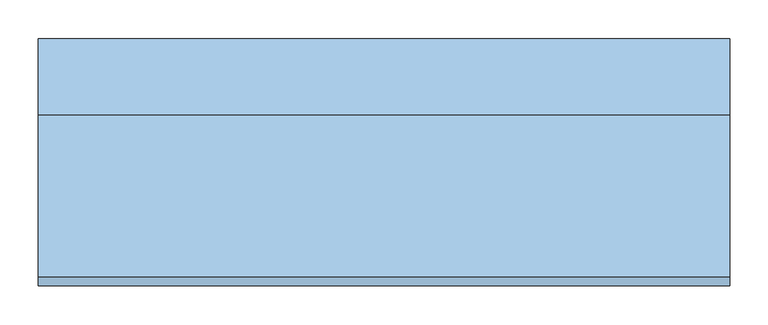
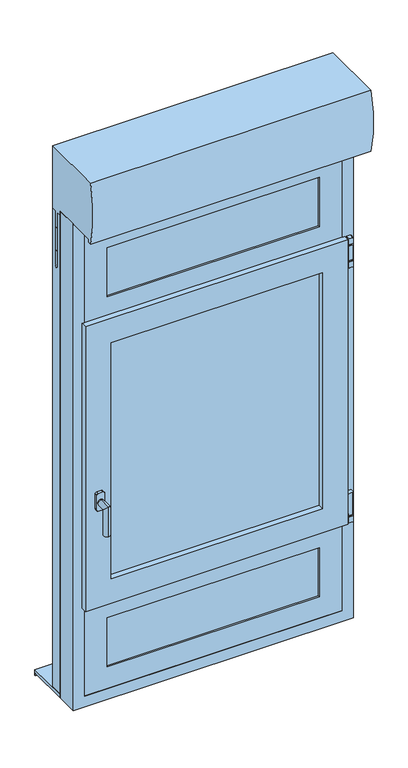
"""IFC4 building model written with IfcOpenShell, lengths in millimetres: window geometry, 10. OF1 + 2 Fixes en B et en H ENR PVC-ALU : OF1  90X165 (LXH) cm + 2 Fixes en B et H."""

from ifc_helpers import new_model, si_unit, point, frame, frame_2d, origin, place, context, project, spatial, polyline, circle_curve, ellipse_curve, trimmed, segment, composite_curve, outline, extrude, faceted_brep, source, transform, mapped, element, save
from ifc_brep_helpers import plane_surface, cylinder_surface, advanced_brep


def window_1ac53e70(model_context):
    return source(origin(), model_context, "Body", "SolidModel", [
        extrude(outline(composite_curve([segment(polyline([(1781.552, 426.552), (1781.552, 441.552), (1799.5583831, 441.552)]), True, "CONTINUOUS"), segment(trimmed(circle_curve(frame_2d((1799.5583831, 439.5583831)), 1.9936169), [point((1799.5583831, 441.552))], [point((1801.552, 439.5583831))], False, "CARTESIAN"), True, "CONTINUOUS"), segment(polyline([(1801.552, 439.5583831), (1801.552, 428.5196754)]), True, "CONTINUOUS"), segment(trimmed(circle_curve(frame_2d((1799.5843246, 428.5196754)), 1.9676754), [point((1801.552, 428.5196754))], [point((1799.5843246, 426.552))], False, "CARTESIAN"), True, "CONTINUOUS"), segment(polyline([(1799.5843246, 426.552), (1781.552, 426.552)]), True, "CONTINUOUS")], self_intersect=False)), frame((0.0, -115.0338923, 0.0), z_axis=(0.0, 1.0, 0.0), x_axis=(0.0, 0.0, 1.0)), (0.0, 0.0, 1.0), 15.0),
        extrude(outline(composite_curve([segment(trimmed(circle_curve(frame_2d((434.2725562, -107.5434807)), 5.0), [point((429.2725562, -107.5434807))], [point((439.2725562, -107.5434807))], False, "CARTESIAN"), True, "CONTINUOUS"), segment(trimmed(circle_curve(frame_2d((434.2725562, -107.5434807)), 5.0), [point((439.2725562, -107.5434807))], [point((429.2725562, -107.5434807))], False, "CARTESIAN"), True, "CONTINUOUS")], self_intersect=False)), frame((0.0, 0.0, 1721.552), z_axis=(0.0, 0.0, 1.0), x_axis=(1.0, 0.0, 0.0)), (0.0, 0.0, 1.0), 60.0),
        extrude(outline(composite_curve([segment(polyline([(421.552, -100.0434807), (439.5938237, -100.0434807)]), True, "CONTINUOUS"), segment(trimmed(circle_curve(frame_2d((439.5938237, -102.001657)), 1.9581763), [point((439.5938237, -100.0434807))], [point((441.552, -102.001657))], False, "CARTESIAN"), True, "CONTINUOUS"), segment(polyline([(441.552, -102.001657), (441.552, -113.0253033)]), True, "CONTINUOUS"), segment(trimmed(circle_curve(frame_2d((439.5338225, -113.0253033)), 2.0181775), [point((441.552, -113.0253033))], [point((439.5338225, -115.0434807))], False, "CARTESIAN"), True, "CONTINUOUS"), segment(polyline([(439.5338225, -115.0434807), (421.552, -115.0434807), (421.552, -100.0434807)]), True, "CONTINUOUS")], self_intersect=False)), frame((0.0, 0.0, 1727.2784618), z_axis=(0.0, 0.0, 1.0), x_axis=(1.0, 0.0, 0.0)), (0.0, 0.0, 1.0), 50.0),
        extrude(outline(composite_curve([segment(polyline([(1722.2784618, 441.7725562), (1722.2784618, 426.7725562), (1704.2877116, 426.7725562)]), True, "CONTINUOUS"), segment(trimmed(circle_curve(frame_2d((1704.2877116, 428.7818059)), 2.0092498), [point((1704.2877116, 426.7725562))], [point((1702.2784618, 428.7818059))], False, "CARTESIAN"), True, "CONTINUOUS"), segment(polyline([(1702.2784618, 428.7818059), (1702.2784618, 440.1223507)]), True, "CONTINUOUS"), segment(trimmed(circle_curve(frame_2d((1704.2521312, 439.7988867)), 2.0), [point((1702.2784618, 440.1223507))], [point((1703.9286672, 441.7725562))], False, "CARTESIAN"), True, "CONTINUOUS"), segment(polyline([(1703.9286672, 441.7725562), (1722.2784618, 441.7725562)]), True, "CONTINUOUS")], self_intersect=False)), frame((0.0, -115.0338923, 0.0), z_axis=(0.0, 1.0, 0.0), x_axis=(0.0, 0.0, 1.0)), (0.0, 0.0, 1.0), 15.0),
        extrude(outline(composite_curve([segment(trimmed(circle_curve(frame_2d((434.2725562, -107.5434807)), 5.0), [point((429.2725562, -107.5434807))], [point((439.2725562, -107.5434807))], False, "CARTESIAN"), True, "CONTINUOUS"), segment(trimmed(circle_curve(frame_2d((434.2725562, -107.5434807)), 5.0), [point((439.2725562, -107.5434807))], [point((429.2725562, -107.5434807))], False, "CARTESIAN"), True, "CONTINUOUS")], self_intersect=False)), frame((0.0, 0.0, 857.841502), z_axis=(0.0, 0.0, 1.0), x_axis=(1.0, 0.0, 0.0)), (0.0, 0.0, 1.0), 5.0),
        extrude(outline(composite_curve([segment(polyline([(857.841502, 441.7725562), (857.841502, 426.7725562), (839.8507517, 426.7725562)]), True, "CONTINUOUS"), segment(trimmed(circle_curve(frame_2d((839.8507517, 428.7818059)), 2.0092498), [point((839.8507517, 426.7725562))], [point((837.841502, 428.7818059))], False, "CARTESIAN"), True, "CONTINUOUS"), segment(polyline([(837.841502, 428.7818059), (837.841502, 440.1223507)]), True, "CONTINUOUS"), segment(trimmed(circle_curve(frame_2d((839.8151714, 439.7988867)), 2.0), [point((837.841502, 440.1223507))], [point((839.4917074, 441.7725562))], False, "CARTESIAN"), True, "CONTINUOUS"), segment(polyline([(839.4917074, 441.7725562), (857.841502, 441.7725562)]), True, "CONTINUOUS")], self_intersect=False)), frame((0.0, -115.0338923, 0.0), z_axis=(0.0, 1.0, 0.0), x_axis=(0.0, 0.0, 1.0)), (0.0, 0.0, 1.0), 15.0),
        extrude(outline(composite_curve([segment(polyline([(421.552, -100.0434807), (439.5938237, -100.0434807)]), True, "CONTINUOUS"), segment(trimmed(circle_curve(frame_2d((439.5938237, -102.001657)), 1.9581763), [point((439.5938237, -100.0434807))], [point((441.552, -102.001657))], False, "CARTESIAN"), True, "CONTINUOUS"), segment(polyline([(441.552, -102.001657), (441.552, -113.0253033)]), True, "CONTINUOUS"), segment(trimmed(circle_curve(frame_2d((439.5338225, -113.0253033)), 2.0181775), [point((441.552, -113.0253033))], [point((439.5338225, -115.0434807))], False, "CARTESIAN"), True, "CONTINUOUS"), segment(polyline([(439.5338225, -115.0434807), (421.552, -115.0434807), (421.552, -100.0434807)]), True, "CONTINUOUS")], self_intersect=False)), frame((0.0, 0.0, 862.841502), z_axis=(0.0, 0.0, 1.0), x_axis=(1.0, 0.0, 0.0)), (0.0, 0.0, 1.0), 75.0),
        faceted_brep([(449.992, -28.9, 2150.0), (449.992, -100.02, 2150.0), (449.992, -100.02, 500.0), (449.992, -28.9, 500.0), (-450.008, -100.02, 2150.0), (-450.008, -100.02, 500.0), (413.416, -100.02, 536.576), (-413.432, -100.02, 536.576), (-413.432, -100.02, 2113.424), (413.416, -100.02, 2113.424), (-450.008, -28.9, 500.0), (-450.008, -28.9, 2150.0), (392.0903858, -28.9, 2092.0983858), (-392.1063858, -28.9, 2092.0983858), (-392.1063858, -28.9, 557.9016142), (392.0903858, -28.9, 557.9016142), (413.416, -44.648, 2113.424), (413.416, -44.648, 536.576), (-413.432, -44.648, 2113.424), (-413.432, -44.648, 536.576), (392.0903858, -44.648, 557.9016142), (-392.1063858, -44.648, 557.9016142), (-392.1063858, -44.648, 2092.0983858), (392.0903858, -44.648, 2092.0983858)], [[[0, 1, 2, 3]], [[1, 4, 5, 2], [6, 7, 8, 9]], [[3, 2, 5, 10]], [[3, 10, 11, 0], [12, 13, 14, 15]], [[9, 16, 17, 6]], [[16, 18, 19, 17], [20, 21, 22, 23]], [[6, 17, 19, 7]], [[23, 12, 15, 20]], [[20, 15, 14, 21]], [[10, 5, 4, 11]], [[7, 19, 18, 8]], [[21, 14, 13, 22]], [[11, 4, 1, 0]], [[8, 18, 16, 9]], [[22, 13, 12, 23]]]),
        faceted_brep([(-450.0, -100.02, 2150.0), (-450.0, -28.9, 2150.0), (-450.0, -28.9, 500.0), (-450.0, -100.02, 500.0), (450.0, -28.9, 2150.0), (450.0, -28.9, 500.0), (-392.0983858, -28.9, 557.9016142), (392.0983858, -28.9, 557.9016142), (392.0983858, -28.9, 2092.0983858), (-392.0983858, -28.9, 2092.0983858), (450.0, -100.02, 500.0), (450.0, -100.02, 2150.0), (-413.424, -100.02, 2113.424), (413.424, -100.02, 2113.424), (413.424, -100.02, 536.576), (-413.424, -100.02, 536.576), (-413.424, -44.648, 2113.424), (-413.424, -44.648, 536.576), (413.424, -44.648, 536.576), (413.424, -44.648, 2113.424), (-392.0983858, -44.648, 2092.0983858), (392.0983858, -44.648, 2092.0983858), (392.0983858, -44.648, 557.9016142), (-392.0983858, -44.648, 557.9016142)], [[[0, 1, 2, 3]], [[1, 4, 5, 2], [6, 7, 8, 9]], [[3, 2, 5, 10]], [[3, 10, 11, 0], [12, 13, 14, 15]], [[16, 12, 15, 17]], [[17, 15, 14, 18]], [[17, 18, 19, 16], [20, 21, 22, 23]], [[9, 20, 23, 6]], [[6, 23, 22, 7]], [[10, 5, 4, 11]], [[18, 14, 13, 19]], [[7, 22, 21, 8]], [[11, 4, 1, 0]], [[19, 13, 12, 16]], [[8, 21, 20, 9]]]),
        extrude(outline(polyline([(353.4, -96.019954), (353.4, -100.019954), (-353.4, -100.019954), (-353.4, -96.019954), (353.4, -96.019954)])), frame((0.0, 0.0, 905.7641025), z_axis=(0.0, 0.0, 1.0), x_axis=(1.0, 0.0, 0.0)), (0.0, 0.0, 1.0), 828.7870233),
        extrude(outline(polyline([(353.4, -68.9786213), (353.4, -72.9786213), (-353.4, -72.9786213), (-353.4, -68.9786213), (353.4, -68.9786213)])), frame((0.0, 0.0, 905.7641025), z_axis=(0.0, 0.0, 1.0), x_axis=(1.0, 0.0, 0.0)), (0.0, 0.0, 1.0), 828.7870233),
        extrude(outline(polyline([(353.4, -41.9786213), (353.4, -45.9786213), (-353.4, -45.9786213), (-353.4, -41.9786213), (353.4, -41.9786213)])), frame((0.0, 0.0, 905.7641025), z_axis=(0.0, 0.0, 1.0), x_axis=(1.0, 0.0, 0.0)), (0.0, 0.0, 1.0), 828.7870233),
        faceted_brep([(361.6086701, -48.2039543, 1742.7422843), (361.6086701, -100.019954, 1742.7422843), (361.6086701, -100.019954, 897.5729441), (361.6086701, -48.2039543, 897.5729441), (-361.6086701, -100.019954, 1742.7422843), (-361.6086701, -100.019954, 897.5729441), (353.4175117, -100.019954, 1734.5511259), (353.4175117, -100.019954, 905.7641025), (-353.4175117, -100.019954, 905.7641025), (-353.4175117, -100.019954, 1734.5511259), (-361.6086701, -48.2039543, 897.5729441), (-386.5514701, -48.2039543, 1767.6850843), (-386.5514701, -48.2039543, 872.6301441), (386.5514701, -48.2039543, 872.6301441), (386.5514701, -48.2039543, 1767.6850843), (-361.6086701, -48.2039543, 1742.7422843), (386.5514701, -28.7475756, 1767.6850843), (386.5514701, -28.7475756, 872.6301441), (-386.5514701, -28.7475756, 872.6301441), (-386.5514701, -28.7475756, 1767.6850843), (-335.3393386, -28.7475756, 1716.4729528), (-335.3393386, -28.7475756, 923.8422755), (335.3393386, -28.7475756, 923.8422755), (335.3393386, -28.7475756, 1716.4729528), (335.3393386, -41.9786213, 1716.4729528), (335.3393386, -41.9786213, 923.8422755), (-335.3393386, -41.9786213, 923.8422755), (-353.4175117, -41.9786213, 1734.5511259), (-353.4175117, -41.9786213, 905.7641025), (353.4175117, -41.9786213, 905.7641025), (353.4175117, -41.9786213, 1734.5511259), (-335.3393386, -41.9786213, 1716.4729528), (339.5240492, -96.019954, 1720.6576634), (339.5240492, -72.9786213, 1720.6576634), (339.5240492, -72.9786213, 919.657565), (339.5240492, -96.019954, 919.657565), (353.4175117, -72.9786213, 1734.5511259), (353.4175117, -72.9786213, 905.7641025), (-353.4175117, -72.9786213, 905.7641025), (-353.4175117, -72.9786213, 1734.5511259), (-339.5240492, -72.9786213, 1720.6576634), (-339.5240492, -72.9786213, 919.657565), (-339.5240492, -96.019954, 919.657565), (-353.4175117, -96.019954, 1734.5511259), (-353.4175117, -96.019954, 905.7641025), (353.4175117, -96.019954, 905.7641025), (353.4175117, -96.019954, 1734.5511259), (-339.5240492, -96.019954, 1720.6576634), (353.4175117, -68.9786213, 1734.5511259), (353.4175117, -68.9786213, 905.7641025), (-353.4175117, -68.9786213, 1734.5511259), (-353.4175117, -68.9786213, 905.7641025), (336.1974041, -68.9786213, 1717.3310183), (336.1974041, -68.9786213, 922.9842101), (-336.1974041, -68.9786213, 922.9842101), (-336.1974041, -68.9786213, 1717.3310183), (353.4175117, -45.9786213, 1734.5511259), (353.4175117, -45.9786213, 905.7641025), (-353.4175117, -45.9786213, 905.7641025), (-353.4175117, -45.9786213, 1734.5511259), (-336.1974041, -45.9786213, 1717.3310183), (-336.1974041, -45.9786213, 922.9842101), (336.1974041, -45.9786213, 922.9842101), (336.1974041, -45.9786213, 1717.3310183)], [[[0, 1, 2, 3]], [[4, 5, 2, 1], [6, 7, 8, 9]], [[3, 2, 5, 10]], [[11, 12, 13, 14], [0, 3, 10, 15]], [[16, 14, 13, 17]], [[17, 13, 12, 18]], [[16, 17, 18, 19], [20, 21, 22, 23]], [[24, 23, 22, 25]], [[25, 22, 21, 26]], [[27, 28, 29, 30], [24, 25, 26, 31]], [[32, 33, 34, 35]], [[36, 37, 38, 39], [40, 41, 34, 33]], [[35, 34, 41, 42]], [[43, 44, 45, 46], [32, 35, 42, 47]], [[6, 46, 45, 7]], [[7, 45, 44, 8]], [[36, 48, 49, 37]], [[50, 51, 49, 48], [52, 53, 54, 55]], [[37, 49, 51, 38]], [[56, 30, 29, 57]], [[57, 29, 28, 58]], [[56, 57, 58, 59], [60, 61, 62, 63]], [[52, 63, 62, 53]], [[53, 62, 61, 54]], [[42, 41, 40, 47]], [[8, 44, 43, 9]], [[10, 5, 4, 15]], [[18, 12, 11, 19]], [[26, 21, 20, 31]], [[58, 28, 27, 59]], [[54, 61, 60, 55]], [[38, 51, 50, 39]], [[15, 4, 1, 0]], [[19, 11, 14, 16]], [[31, 20, 23, 24]], [[47, 40, 33, 32]], [[9, 43, 46, 6]], [[39, 50, 48, 36]], [[59, 27, 30, 56]], [[55, 60, 63, 52]]]),
        faceted_brep([(-421.552, -119.3239543, 837.6296142), (-421.552, -100.0434807, 837.6296142), (421.552, -100.0434807, 837.6296142), (421.552, -119.3239543, 837.6296142), (421.552, -100.0434807, 1802.6856142), (421.552, -119.3239543, 1802.6856142), (-421.552, -100.0434807, 1802.6856142), (401.232, -100.0434807, 1782.3656142), (-401.232, -100.0434807, 1782.3656142), (-401.232, -100.0434807, 857.9496142), (401.232, -100.0434807, 857.9496142), (-421.552, -119.3239543, 1802.6856142), (339.3505043, -119.3239543, 919.8311099), (-339.3505043, -119.3239543, 919.8311099), (-339.3505043, -119.3239543, 1720.4841185), (339.3505043, -119.3239543, 1720.4841185), (-339.3505043, -100.019954, 919.8311099), (339.3505043, -100.019954, 919.8311099), (339.3505043, -100.019954, 1720.4841185), (361.6086701, -100.019954, 897.5729441), (-361.6086701, -100.019954, 897.5729441), (-361.6086701, -100.019954, 1742.7422843), (361.6086701, -100.019954, 1742.7422843), (-339.3505043, -100.019954, 1720.4841185), (-361.6086701, -48.2039543, 897.5729441), (361.6086701, -48.2039543, 897.5729441), (361.6086701, -48.2039543, 1742.7422843), (392.0983858, -48.2039543, 867.0832284), (-392.0983858, -48.2039543, 867.0832284), (-392.0983858, -48.2039543, 1773.232), (392.0983858, -48.2039543, 1773.232), (-361.6086701, -48.2039543, 1742.7422843), (-392.0983858, -44.648, 867.0832284), (392.0983858, -44.648, 867.0832284), (392.0983858, -44.648, 1773.232), (401.232, -44.648, 857.9496142), (-401.232, -44.648, 857.9496142), (-401.232, -44.648, 1782.3656142), (401.232, -44.648, 1782.3656142), (-392.0983858, -44.648, 1773.232)], [[[0, 1, 2, 3]], [[3, 2, 4, 5]], [[2, 1, 6, 4], [7, 8, 9, 10]], [[5, 11, 0, 3], [12, 13, 14, 15]], [[16, 13, 12, 17]], [[17, 12, 15, 18]], [[19, 20, 21, 22], [18, 23, 16, 17]], [[24, 20, 19, 25]], [[25, 19, 22, 26]], [[27, 28, 29, 30], [26, 31, 24, 25]], [[32, 28, 27, 33]], [[33, 27, 30, 34]], [[35, 36, 37, 38], [34, 39, 32, 33]], [[9, 36, 35, 10]], [[10, 35, 38, 7]], [[11, 6, 1, 0]], [[23, 14, 13, 16]], [[31, 21, 20, 24]], [[39, 29, 28, 32]], [[8, 37, 36, 9]], [[5, 4, 6, 11]], [[18, 15, 14, 23]], [[26, 22, 21, 31]], [[34, 30, 29, 39]], [[7, 38, 37, 8]]]),
        extrude(outline(composite_curve([segment(polyline([(-186.3991192, 2140.3409737), (-197.3316724, 2140.3409737)]), True, "CONTINUOUS"), segment(trimmed(circle_curve(frame_2d((189.1050523, 2243.6204869)), 400.0), [point((-197.3316724, 2140.3409737))], [point((-197.3316724, 2346.9))], False, "CARTESIAN"), True, "CONTINUOUS"), segment(polyline([(-197.3316724, 2346.9), (13.0999994, 2346.9), (13.0999994, 2136.0216226), (-4.9499979, 2136.0216226), (-4.9499979, 2134.2216225), (-2.7215215, 2134.2216225), (-2.7215215, 2109.9791617), (-4.9499979, 2109.9791617), (-4.9499979, 2108.1791616), (-2.7215215, 2108.1791616), (-2.7215215, 2083.9367008), (-4.9499979, 2083.9367008), (-4.9499979, 2082.1367006), (-2.7215215, 2082.1367006), (-2.7215215, 2057.8942398), (-4.9499979, 2057.8942398), (-4.9499979, 2056.0942397), (-2.7215215, 2056.0942397), (-2.7215215, 2031.8517789), (-4.9499979, 2031.8517789), (-4.9499979, 2030.0517788), (-2.7215215, 2030.0517788), (-2.7215215, 2005.809318), (-4.9499979, 2005.809318), (-4.9499979, 2004.0093179), (-2.7215215, 2004.0093179), (-2.7215215, 1979.7668571), (-4.9499979, 1979.7668571), (-4.9499979, 1977.966857), (-2.7215215, 1977.966857), (-2.7215215, 1953.7243961), (-4.9499979, 1953.7243961), (-4.9499979, 1951.9243963), (-3.044091, 1951.9243963), (-3.044091, 1948.977424), (-6.4, 1945.6232688), (-9.8999992, 1948.9774251), (-9.8999992, 1951.9243963), (-7.7499979, 1951.9243963), (-7.7499979, 1953.7243961), (-9.9999979, 1953.7243961), (-9.9999979, 1977.9668572), (-7.7499979, 1977.9668572), (-7.7499979, 1979.7668571), (-9.9999979, 1979.7668571), (-9.9999979, 2004.0093181), (-7.7499979, 2004.0093181), (-7.7499979, 2005.809318), (-9.9999979, 2005.809318), (-9.9999979, 2030.051779), (-7.7499979, 2030.051779), (-7.7499979, 2031.8517789), (-9.9999979, 2031.8517789), (-9.9999979, 2056.09424), (-7.7499979, 2056.09424), (-7.7499979, 2057.8942398), (-9.9999979, 2057.8942398), (-9.9999979, 2082.1367009), (-7.7499979, 2082.1367009), (-7.7499979, 2083.9367008), (-9.9999979, 2083.9367008), (-9.9999979, 2108.1791618), (-7.7499979, 2108.1791618), (-7.7499979, 2109.9791617), (-9.9999979, 2109.9791617), (-9.9999979, 2134.2216227), (-7.7499979, 2134.2216227), (-7.7499979, 2136.0216226), (-28.9, 2136.0216226), (-28.9, 2150.0), (-186.3991192, 2150.0), (-186.3991192, 2140.3409737)]), True, "CONTINUOUS")], self_intersect=False)), frame((-450.008, 0.0, 0.0), z_axis=(1.0, 0.0, 0.0), x_axis=(0.0, 1.0, 0.0)), (0.0, 0.0, 1.0), 900.008),
        advanced_brep(
        [(-378.3268127, -129.3239543, 1209.1836698), (-378.3268127, -129.3239543, 1189.1836698), (-378.3268127, -133.0531938, 1189.1836698), (-378.3268127, -133.0531938, 1209.1836698), (-378.3268127, -173.0531938, 1209.1836698), (-378.3268127, -153.0531938, 1189.1836698), (-378.3268127, -173.0531938, 1109.1836698), (-378.3268127, -153.0531938, 1109.1836698)],
        [
            (0, 1, circle_curve(frame((-378.3268127, -129.3239543, 1199.1836698), z_axis=(0.0, 1.0, 0.0), x_axis=(0.0, 0.0, -1.0)), 10.0)),
            (1, 0, circle_curve(frame((-378.3268127, -129.3239543, 1199.1836698), z_axis=(0.0, 1.0, 0.0), x_axis=(0.0, 0.0, -1.0)), 10.0)),
            (2, 3, circle_curve(frame((-378.3268127, -133.0531938, 1199.1836698), z_axis=(0.0, -1.0, 0.0), x_axis=(0.0, 0.0, -1.0)), 10.0)),
            (3, 4),
            (4, 5, ellipse_curve(frame((-378.3268127, -163.0531938, 1199.1836698), z_axis=(0.0, 0.7071067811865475, 0.7071067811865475), x_axis=(0.0, 0.7071067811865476, -0.7071067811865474)), 14.1421356, 10.0)),
            (5, 2),
            (3, 2, circle_curve(frame((-378.3268127, -133.0531938, 1199.1836698), z_axis=(0.0, -1.0, 0.0), x_axis=(0.0, 0.0, -1.0)), 10.0)),
            (5, 4, ellipse_curve(frame((-378.3268127, -163.0531938, 1199.1836698), z_axis=(0.0, 0.7071067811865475, 0.7071067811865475), x_axis=(0.0, 0.7071067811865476, -0.7071067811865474)), 14.1421356, 10.0)),
            (6, 7, circle_curve(frame((-378.3268127, -163.0531938, 1109.1836698), z_axis=(0.0, 0.0, -1.0), x_axis=(0.0, 1.0, 0.0)), 10.0)),
            (7, 6, circle_curve(frame((-378.3268127, -163.0531938, 1109.1836698), z_axis=(0.0, 0.0, -1.0), x_axis=(0.0, 1.0, 0.0)), 10.0)),
            (4, 6),
            (7, 5),
            (0, 3),
            (2, 1),
        ],
        [
            plane_surface(frame((-366.104, -129.3239543, 1199.1836698), z_axis=(0.0, 1.0, 0.0), x_axis=(1.0, 0.0, 0.0))),
            cylinder_surface(frame((-378.3268127, -133.0531938, 1199.1836698), z_axis=(0.0, 1.0, 0.0), x_axis=(0.0, 0.0, -1.0)), 10.0),
            plane_surface(frame((-366.104, -163.0531938, 1109.1836698), z_axis=(0.0, 0.0, -1.0), x_axis=(1.0, 0.0, 0.0))),
            cylinder_surface(frame((-378.3268127, -163.0531938, 1199.1836698), z_axis=(0.0, 0.0, 1.0), x_axis=(0.0, 1.0, 0.0)), 10.0),
            cylinder_surface(frame((-378.3268127, -129.3239543, 1199.1836698), z_axis=(0.0, 1.0, 0.0), x_axis=(0.0, 0.0, -1.0)), 10.0),
        ],
        [
            (0, [[1, 2]]),
            (1, [[3, 4, 5, 6]]),
            (1, [[7, -6, 8, -4]]),
            (2, [[9, 10]]),
            (3, [[-5, 11, -10, 12]]),
            (3, [[-8, -12, -9, -11]]),
            (4, [[-1, 13, -3, 14]]),
            (4, [[-2, -14, -7, -13]]),
        ],
    ),
        extrude(outline(composite_curve([segment(polyline([(1231.3798349, -371.104), (1231.3798349, -386.104)]), True, "CONTINUOUS"), segment(trimmed(circle_curve(frame_2d((1226.3798349, -386.104)), 5.0), [point((1231.3798349, -386.104))], [point((1226.3798349, -391.104))], False, "CARTESIAN"), True, "CONTINUOUS"), segment(polyline([(1226.3798349, -391.104), (1176.3798349, -391.104)]), True, "CONTINUOUS"), segment(trimmed(circle_curve(frame_2d((1176.3798349, -386.104)), 5.0), [point((1176.3798349, -391.104))], [point((1171.3798349, -386.104))], False, "CARTESIAN"), True, "CONTINUOUS"), segment(polyline([(1171.3798349, -386.104), (1171.3798349, -371.104)]), True, "CONTINUOUS"), segment(trimmed(circle_curve(frame_2d((1176.3798349, -371.104)), 5.0), [point((1171.3798349, -371.104))], [point((1176.3798349, -366.104))], False, "CARTESIAN"), True, "CONTINUOUS"), segment(polyline([(1176.3798349, -366.104), (1226.3798349, -366.104)]), True, "CONTINUOUS"), segment(trimmed(circle_curve(frame_2d((1226.3798349, -371.104)), 5.0), [point((1226.3798349, -366.104))], [point((1231.3798349, -371.104))], False, "CARTESIAN"), True, "CONTINUOUS")], self_intersect=False)), frame((0.0, -129.3239543, 0.0), z_axis=(0.0, 1.0, 0.0), x_axis=(0.0, 0.0, 1.0)), (0.0, 0.0, 1.0), 10.0),
        extrude(outline(polyline([(-28.9, 500.0), (-28.9, 512.9639252), (113.0, 509.77529), (113.0, 490.0), (110.0, 490.0), (110.0, 500.0), (-28.9, 500.0)])), frame((-450.0, 0.0, 0.0), z_axis=(1.0, 0.0, 0.0), x_axis=(0.0, 1.0, 0.0)), (0.0, 0.0, 1.0), 900.0),
        extrude(outline(polyline([(-449.0, -28.9), (-450.0, -28.9), (-450.0, 13.1), (-449.0, 13.1), (-449.0, 2.1), (-429.0, 2.1), (-429.0, -0.9), (-449.0, -0.9), (-449.0, -11.9), (-429.0, -11.9), (-429.0, -14.9), (-449.0, -14.9), (-449.0, -28.9)])), frame((0.0, 0.0, 512.9639252), z_axis=(0.0, 0.0, 1.0), x_axis=(1.0, 0.0, 0.0)), (0.0, 0.0, 1.0), 1623.1),
        extrude(outline(polyline([(448.992, -28.9), (448.992, -14.9), (428.992, -14.9), (428.992, -11.9), (448.992, -11.9), (448.992, -0.9), (428.992, -0.9), (428.992, 2.1), (448.992, 2.1), (448.992, 13.1), (449.992, 13.1), (449.992, -28.9), (448.992, -28.9)])), frame((0.0, 0.0, 512.9639252), z_axis=(0.0, 0.0, 1.0), x_axis=(1.0, 0.0, 0.0)), (0.0, 0.0, 1.0), 1623.1),
        faceted_brep([(-422.6685125, -99.9260824, 2113.0685125), (-422.6685125, -43.5260824, 2113.0685125), (-422.6685125, -43.5260824, 1782.3234875), (-422.6685125, -99.9260824, 1782.3234875), (-354.4685125, -90.3260824, 2044.8685125), (-354.4685125, -94.3260824, 2044.8685125), (-354.4685125, -94.3260824, 1850.5234875), (-354.4685125, -90.3260824, 1850.5234875), (-340.5685125, -70.3260824, 2030.9685125), (-340.5685125, -90.3260824, 2030.9685125), (-340.5685125, -90.3260824, 1864.4234875), (-340.5685125, -70.3260824, 1864.4234875), (-354.4685125, -66.3260824, 2044.8685125), (-354.4685125, -70.3260824, 2044.8685125), (-354.4685125, -70.3260824, 1850.5234875), (-354.4685125, -66.3260824, 1850.5234875), (-340.5685125, -43.5260824, 2030.9685125), (-340.5685125, -66.3260824, 2030.9685125), (-340.5685125, -66.3260824, 1864.4234875), (-340.5685125, -43.5260824, 1864.4234875), (422.6765125, -43.5260824, 1782.3234875), (422.6765125, -99.9260824, 1782.3234875), (354.4765125, -94.3260824, 1850.5234875), (354.4765125, -90.3260824, 1850.5234875), (340.5765125, -90.3260824, 1864.4234875), (340.5765125, -70.3260824, 1864.4234875), (354.4765125, -70.3260824, 1850.5234875), (354.4765125, -66.3260824, 1850.5234875), (340.5765125, -66.3260824, 1864.4234875), (340.5765125, -43.5260824, 1864.4234875), (422.6765125, -43.5260824, 2113.0685125), (422.6765125, -99.9260824, 2113.0685125), (354.4765125, -94.3260824, 2044.8685125), (354.4765125, -90.3260824, 2044.8685125), (340.5765125, -90.3260824, 2030.9685125), (340.5765125, -70.3260824, 2030.9685125), (354.4765125, -70.3260824, 2044.8685125), (354.4765125, -66.3260824, 2044.8685125), (340.5765125, -66.3260824, 2030.9685125), (340.5765125, -43.5260824, 2030.9685125), (-340.5685125, -94.3260824, 1864.4234875), (340.5765125, -94.3260824, 1864.4234875), (340.5765125, -94.3260824, 2030.9685125), (-340.5685125, -94.3260824, 2030.9685125), (-340.5685125, -99.9260824, 2030.9685125), (-340.5685125, -99.9260824, 1864.4234875), (340.5765125, -99.9260824, 1864.4234875), (340.5765125, -99.9260824, 2030.9685125)], [[[0, 1, 2, 3]], [[4, 5, 6, 7]], [[8, 9, 10, 11]], [[12, 13, 14, 15]], [[16, 17, 18, 19]], [[3, 2, 20, 21]], [[7, 6, 22, 23]], [[11, 10, 24, 25]], [[15, 14, 26, 27]], [[19, 18, 28, 29]], [[21, 20, 30, 31]], [[23, 22, 32, 33]], [[25, 24, 34, 35]], [[27, 26, 36, 37]], [[29, 28, 38, 39]], [[1, 30, 20, 2], [19, 29, 39, 16]], [[31, 30, 1, 0]], [[5, 32, 22, 6], [40, 41, 42, 43]], [[33, 32, 5, 4]], [[7, 23, 33, 4], [9, 34, 24, 10]], [[35, 34, 9, 8]], [[13, 36, 26, 14], [11, 25, 35, 8]], [[37, 36, 13, 12]], [[15, 27, 37, 12], [17, 38, 28, 18]], [[39, 38, 17, 16]], [[43, 44, 45, 40]], [[40, 45, 46, 41]], [[41, 46, 47, 42]], [[3, 21, 31, 0], [44, 47, 46, 45]], [[42, 47, 44, 43]]]),
        faceted_brep([(-422.6685125, -99.9260824, 858.0685125), (-422.6685125, -43.5260824, 858.0685125), (-422.6685125, -43.5260824, 527.3234875), (-422.6685125, -99.9260824, 527.3234875), (-354.4685125, -90.3260824, 789.8685125), (-354.4685125, -94.3260824, 789.8685125), (-354.4685125, -94.3260824, 595.5234875), (-354.4685125, -90.3260824, 595.5234875), (-340.5685125, -70.3260824, 775.9685125), (-340.5685125, -90.3260824, 775.9685125), (-340.5685125, -90.3260824, 609.4234875), (-340.5685125, -70.3260824, 609.4234875), (-354.4685125, -66.3260824, 789.8685125), (-354.4685125, -70.3260824, 789.8685125), (-354.4685125, -70.3260824, 595.5234875), (-354.4685125, -66.3260824, 595.5234875), (-340.5685125, -43.5260824, 775.9685125), (-340.5685125, -66.3260824, 775.9685125), (-340.5685125, -66.3260824, 609.4234875), (-340.5685125, -43.5260824, 609.4234875), (422.6765125, -43.5260824, 527.3234875), (422.6765125, -99.9260824, 527.3234875), (354.4765125, -94.3260824, 595.5234875), (354.4765125, -90.3260824, 595.5234875), (340.5765125, -90.3260824, 609.4234875), (340.5765125, -70.3260824, 609.4234875), (354.4765125, -70.3260824, 595.5234875), (354.4765125, -66.3260824, 595.5234875), (340.5765125, -66.3260824, 609.4234875), (340.5765125, -43.5260824, 609.4234875), (422.6765125, -43.5260824, 858.0685125), (422.6765125, -99.9260824, 858.0685125), (354.4765125, -94.3260824, 789.8685125), (354.4765125, -90.3260824, 789.8685125), (340.5765125, -90.3260824, 775.9685125), (340.5765125, -70.3260824, 775.9685125), (354.4765125, -70.3260824, 789.8685125), (354.4765125, -66.3260824, 789.8685125), (340.5765125, -66.3260824, 775.9685125), (340.5765125, -43.5260824, 775.9685125), (-340.5685125, -94.3260824, 609.4234875), (340.5765125, -94.3260824, 609.4234875), (340.5765125, -94.3260824, 775.9685125), (-340.5685125, -94.3260824, 775.9685125), (-340.5685125, -99.9260824, 775.9685125), (-340.5685125, -99.9260824, 609.4234875), (340.5765125, -99.9260824, 609.4234875), (340.5765125, -99.9260824, 775.9685125)], [[[0, 1, 2, 3]], [[4, 5, 6, 7]], [[8, 9, 10, 11]], [[12, 13, 14, 15]], [[16, 17, 18, 19]], [[3, 2, 20, 21]], [[7, 6, 22, 23]], [[11, 10, 24, 25]], [[15, 14, 26, 27]], [[19, 18, 28, 29]], [[21, 20, 30, 31]], [[23, 22, 32, 33]], [[25, 24, 34, 35]], [[27, 26, 36, 37]], [[29, 28, 38, 39]], [[1, 30, 20, 2], [19, 29, 39, 16]], [[31, 30, 1, 0]], [[5, 32, 22, 6], [40, 41, 42, 43]], [[33, 32, 5, 4]], [[7, 23, 33, 4], [9, 34, 24, 10]], [[35, 34, 9, 8]], [[13, 36, 26, 14], [11, 25, 35, 8]], [[37, 36, 13, 12]], [[15, 27, 37, 12], [17, 38, 28, 18]], [[39, 38, 17, 16]], [[43, 44, 45, 40]], [[40, 45, 46, 41]], [[41, 46, 47, 42]], [[3, 21, 31, 0], [44, 47, 46, 45]], [[42, 47, 44, 43]]]),
        extrude(outline(polyline([(354.5, -90.3260824), (354.5, -94.3260824), (-354.4, -94.3260824), (-354.4, -90.3260824), (354.5, -90.3260824)])), frame((0.0, 0.0, 1850.5234875), z_axis=(0.0, 0.0, 1.0), x_axis=(1.0, 0.0, 0.0)), (0.0, 0.0, 1.0), 194.3450251),
        extrude(outline(polyline([(354.5, -66.3260824), (354.5, -70.3260824), (-354.4, -70.3260824), (-354.4, -66.3260824), (354.5, -66.3260824)])), frame((0.0, 0.0, 1850.5234875), z_axis=(0.0, 0.0, 1.0), x_axis=(1.0, 0.0, 0.0)), (0.0, 0.0, 1.0), 194.3450251),
        extrude(outline(polyline([(354.5, -90.3260824), (354.5, -94.3260824), (-354.4, -94.3260824), (-354.4, -90.3260824), (354.5, -90.3260824)])), frame((0.0, 0.0, 595.5234875), z_axis=(0.0, 0.0, 1.0), x_axis=(1.0, 0.0, 0.0)), (0.0, 0.0, 1.0), 194.3450251),
        extrude(outline(polyline([(354.5, -66.3260824), (354.5, -70.3260824), (-354.4, -70.3260824), (-354.4, -66.3260824), (354.5, -66.3260824)])), frame((0.0, 0.0, 595.5234875), z_axis=(0.0, 0.0, 1.0), x_axis=(1.0, 0.0, 0.0)), (0.0, 0.0, 1.0), 194.3450251),
    ])


if __name__ == "__main__":
    model = new_model("IFC4")
    model_context = context("Model", 3, world=origin())
    ifc_project = project(units=[si_unit("LENGTHUNIT", "METRE", prefix="MILLI")], contexts=[model_context])
    site = spatial("IfcSite", under=ifc_project)
    building = spatial("IfcBuilding", under=site)
    placement = place(None, origin())
    window_shape = window_1ac53e70(model_context)
    element("IfcWindow", 1, ObjectType="10. OF1 + 2 Fixes en B et en H ENR PVC-ALU : OF1  90X165 (LXH) cm + 2 Fixes en B et H", at=placement, inside=building, context=model_context, shape_type="MappedRepresentation", body=[
        mapped(window_shape, transform((0.0, 0.0, 0.0), x_axis=(1.0, 0.0, 0.0), y_axis=(0.0, 1.0, 0.0), z_axis=(0.0, 0.0, 1.0))),
    ])
    save(model, "model.ifc")
